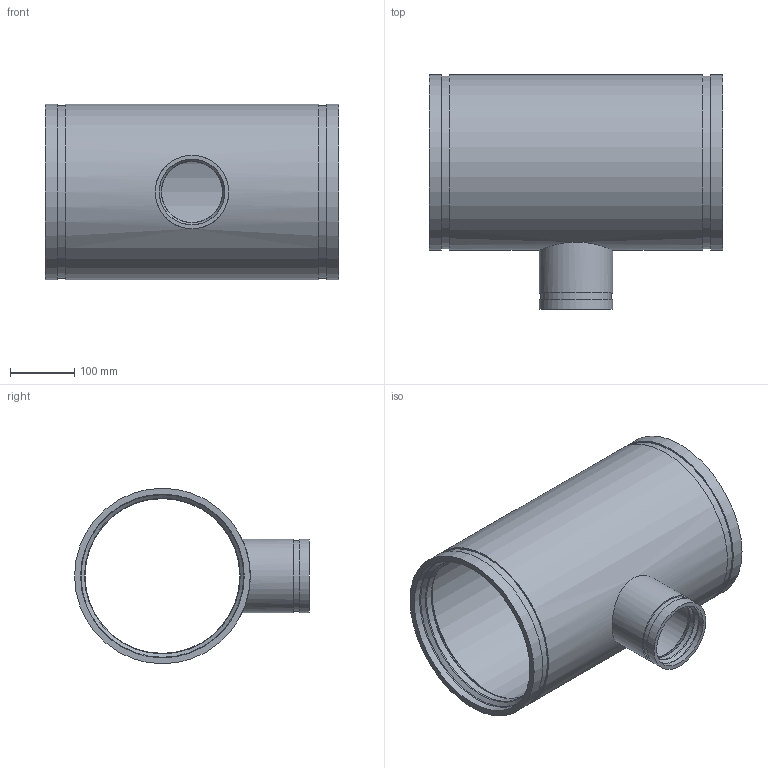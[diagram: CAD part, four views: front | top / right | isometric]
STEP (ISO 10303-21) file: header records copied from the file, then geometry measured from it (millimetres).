
FILE_DESCRIPTION(/* description */ ('VIC REDUCING TEE No 425H-SS','CAx-IF Rec.Pracs.---Representation and Presentation of Product Manufacturing Information (PMI)---4.0---2014-10-13'),/* implementation_level */ '2;1');
FILE_NAME(/* name */ 'C:\Users\kkamble\AppData\Roaming\Autodesk\ApplicationPlugins\Back Up\Victaulic_SS-OGS_Tee Reducing_Sched 40S_No 425H SS (OGS)\Victaulic_SS-OGS_Tee Reducing_Sched 40S_No 425H SS (OGS)_10.0x04.0 (250x100).stp',/* time_stamp */ '2020-08-27T17:20:24+06:00',/* author */ ('CORINNE GRAY'),/* organization */ ('Victaulic'),/* preprocessor_version */ 'ST-DEVELOPER v17.2',/* originating_system */ 'Autodesk Inventor 2019',/* authorisation */ '');
FILE_SCHEMA (('AP242_MANAGED_MODEL_BASED_3D_ENGINEERING_MIM_LF { 1 0 10303 442 1 1 4 }'));
Length unit declared in the file: inch
Products named in the file (1): 425H SS-10.0x04.0
Bounding box: 457.2 x 365.12 x 273.05 mm (x, y, z)
Volume: 3798199.4 mm3; surface area: 842188.2 mm2
Topology: 1 solids, 1 shells, 43 faces, 134 edges, 100 vertices
Faces by surface type: cylinder 16, torus 12, plane 9, cone 6
Full cylindrical faces by diameter (mm): 94.64 x1, 102.362 x2, 110.084 x1, 114.3 x2, 240.741 x2, 254.508 x3, 268.275 x2, 273.05 x3
Entity records: 1919 total; most frequent: CARTESIAN_POINT 427, DIRECTION 352, ORIENTED_EDGE 268, AXIS2_PLACEMENT_3D 165, EDGE_CURVE 134, CIRCLE 108, VERTEX_POINT 100, EDGE_LOOP 54
